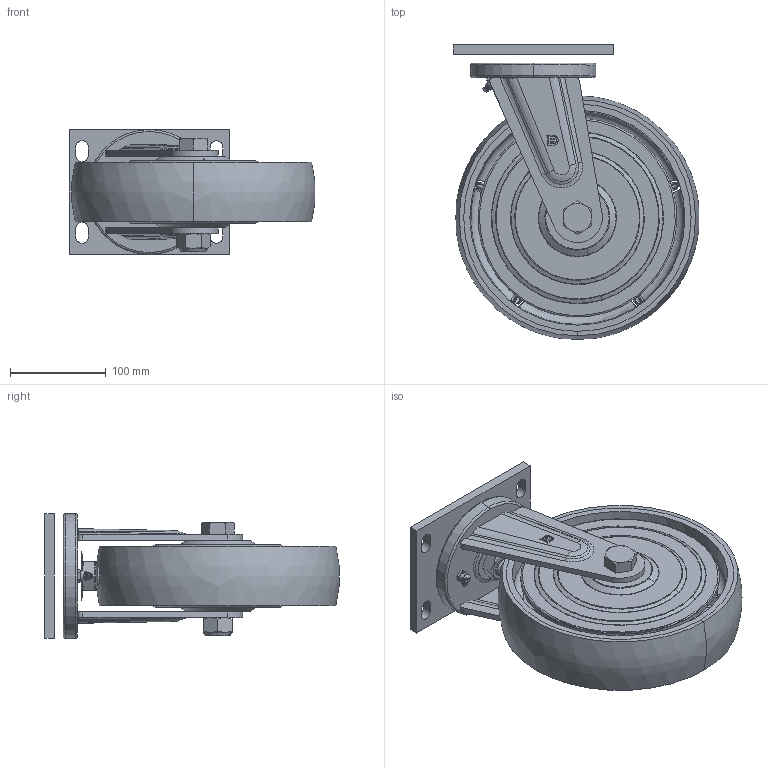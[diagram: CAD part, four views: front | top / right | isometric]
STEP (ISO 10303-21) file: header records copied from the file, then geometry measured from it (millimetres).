
FILE_DESCRIPTION((''),'2;1');
FILE_NAME('PRT0005','2025-03-29T15:59:31',('Administrator'),(''),'CREO PARAMETRIC BY PTC INC, 2024325','CREO PARAMETRIC BY PTC INC, 2024325','');
FILE_SCHEMA(('CONFIG_CONTROL_DESIGN','GEOMETRIC_VALIDATION_PROPERTIES_MIM'));
Length unit declared in the file: millimetre
Products named in the file (1): PRT0005
Bounding box: 256.07 x 306.57 x 130 mm (x, y, z)
Surface area: 451013.8 mm2 (no closed solid volume)
Topology: 0 solids, 35 shells, 470 faces, 1639 edges, 1171 vertices
Faces by surface type: plane 138, bspline 112, torus 94, cone 68, cylinder 58
Entity records: 30118 total; most frequent: CARTESIAN_POINT 13441, ORIENTED_EDGE 2453, DIRECTION 2187, EDGE_CURVE 1639, VERTEX_POINT 1171, AXIS2_PLACEMENT_3D 913, B_SPLINE_CURVE_WITH_KNOTS 723, FILL_AREA_STYLE_COLOUR 678
